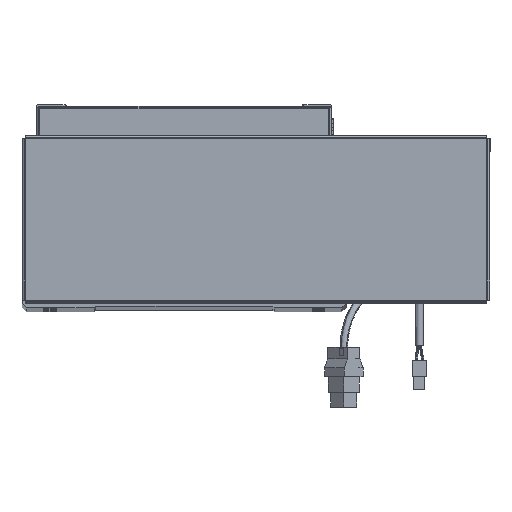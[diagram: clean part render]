
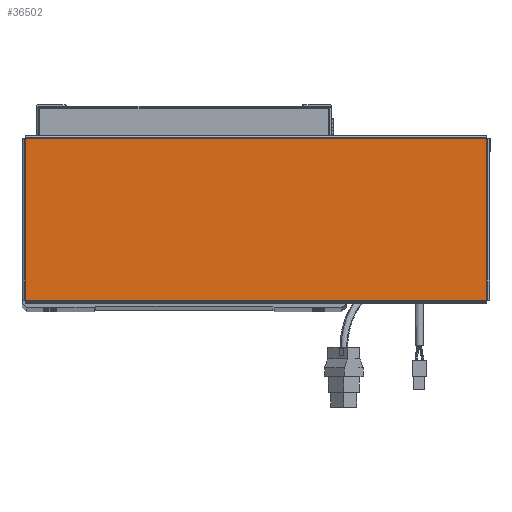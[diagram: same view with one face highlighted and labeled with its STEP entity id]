
A CAD part, top view. The second image highlights one B-rep face of the part: STEP entity #36502.
In plain terms, the highlighted planar face has unit normal (0, 0, 1).
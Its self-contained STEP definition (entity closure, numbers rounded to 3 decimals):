
#5433 = CARTESIAN_POINT ( 'NONE',  ( -156.543, -54.763, 0. ) ) ;
#6108 = LINE ( 'NONE', #34916, #22690 ) ;
#6651 = FACE_OUTER_BOUND ( 'NONE', #59289, .T. ) ;
#7236 = DIRECTION ( 'NONE',  ( -1., 0., 0. ) ) ;
#9241 = EDGE_CURVE ( 'NONE', #11273, #46403, #60483, .T. ) ;
#9354 = VECTOR ( 'NONE', #7236, 1000. ) ;
#11273 = VERTEX_POINT ( 'NONE', #17285 ) ;
#11503 = ORIENTED_EDGE ( 'NONE', *, *, #49261, .T. ) ;
#12706 = LINE ( 'NONE', #29040, #9354 ) ;
#17285 = CARTESIAN_POINT ( 'NONE',  ( -156.513, -54.763, 0. ) ) ;
#18891 = PLANE ( 'NONE',  #50143 ) ;
#22690 = VECTOR ( 'NONE', #34456, 1000. ) ;
#23743 = CARTESIAN_POINT ( 'NONE',  ( 0., 0., 0. ) ) ;
#24192 = DIRECTION ( 'NONE',  ( 1., 0., 0. ) ) ;
#29040 = CARTESIAN_POINT ( 'NONE',  ( 156.543, 54.763, 0. ) ) ;
#30475 = CARTESIAN_POINT ( 'NONE',  ( -156.513, 54.763, 0. ) ) ;
#34146 = VERTEX_POINT ( 'NONE', #45668 ) ;
#34456 = DIRECTION ( 'NONE',  ( 0., 1., 0. ) ) ;
#34916 = CARTESIAN_POINT ( 'NONE',  ( 156.513, -54.793, 0. ) ) ;
#35653 = LINE ( 'NONE', #54821, #55544 ) ;
#36502 = ADVANCED_FACE ( 'NONE', ( #6651 ), #18891, .T. ) ;
#42122 = CARTESIAN_POINT ( 'NONE',  ( 156.513, -54.763, 0. ) ) ;
#44474 = ORIENTED_EDGE ( 'NONE', *, *, #9241, .T. ) ;
#45668 = CARTESIAN_POINT ( 'NONE',  ( 156.513, 54.763, 0. ) ) ;
#46403 = VERTEX_POINT ( 'NONE', #42122 ) ;
#49261 = EDGE_CURVE ( 'NONE', #61261, #11273, #35653, .T. ) ;
#50143 = AXIS2_PLACEMENT_3D ( 'NONE', #23743, #60868, #24192 ) ;
#53666 = DIRECTION ( 'NONE',  ( 1., 0., 0. ) ) ;
#54364 = DIRECTION ( 'NONE',  ( 0., -1., 0. ) ) ;
#54821 = CARTESIAN_POINT ( 'NONE',  ( -156.513, 54.793, 0. ) ) ;
#55544 = VECTOR ( 'NONE', #54364, 1000. ) ;
#59289 = EDGE_LOOP ( 'NONE', ( #44474, #60132, #59474, #11503 ) ) ;
#59474 = ORIENTED_EDGE ( 'NONE', *, *, #61608, .T. ) ;
#60132 = ORIENTED_EDGE ( 'NONE', *, *, #61087, .T. ) ;
#60483 = LINE ( 'NONE', #5433, #62124 ) ;
#60868 = DIRECTION ( 'NONE',  ( 0., 0., 1. ) ) ;
#61087 = EDGE_CURVE ( 'NONE', #46403, #34146, #6108, .T. ) ;
#61261 = VERTEX_POINT ( 'NONE', #30475 ) ;
#61608 = EDGE_CURVE ( 'NONE', #34146, #61261, #12706, .T. ) ;
#62124 = VECTOR ( 'NONE', #53666, 1000. ) ;
